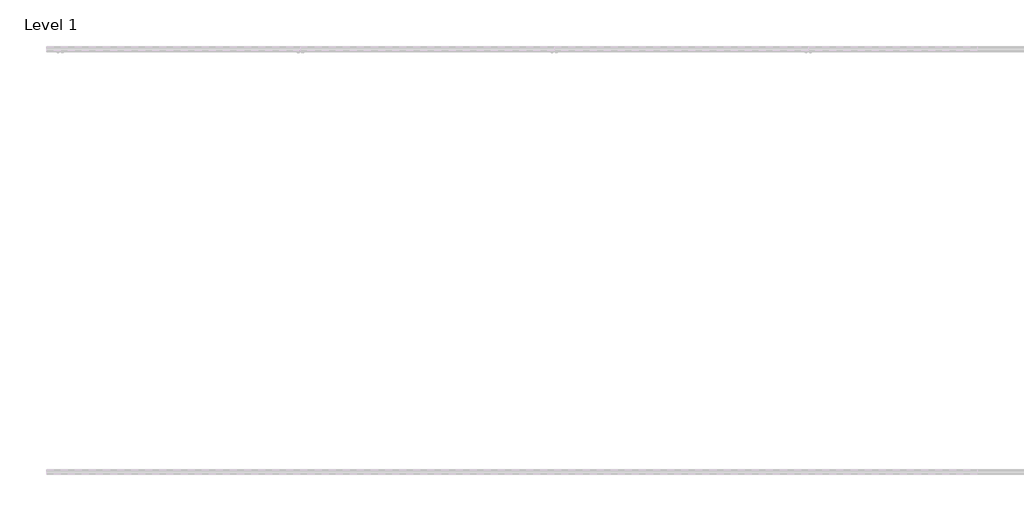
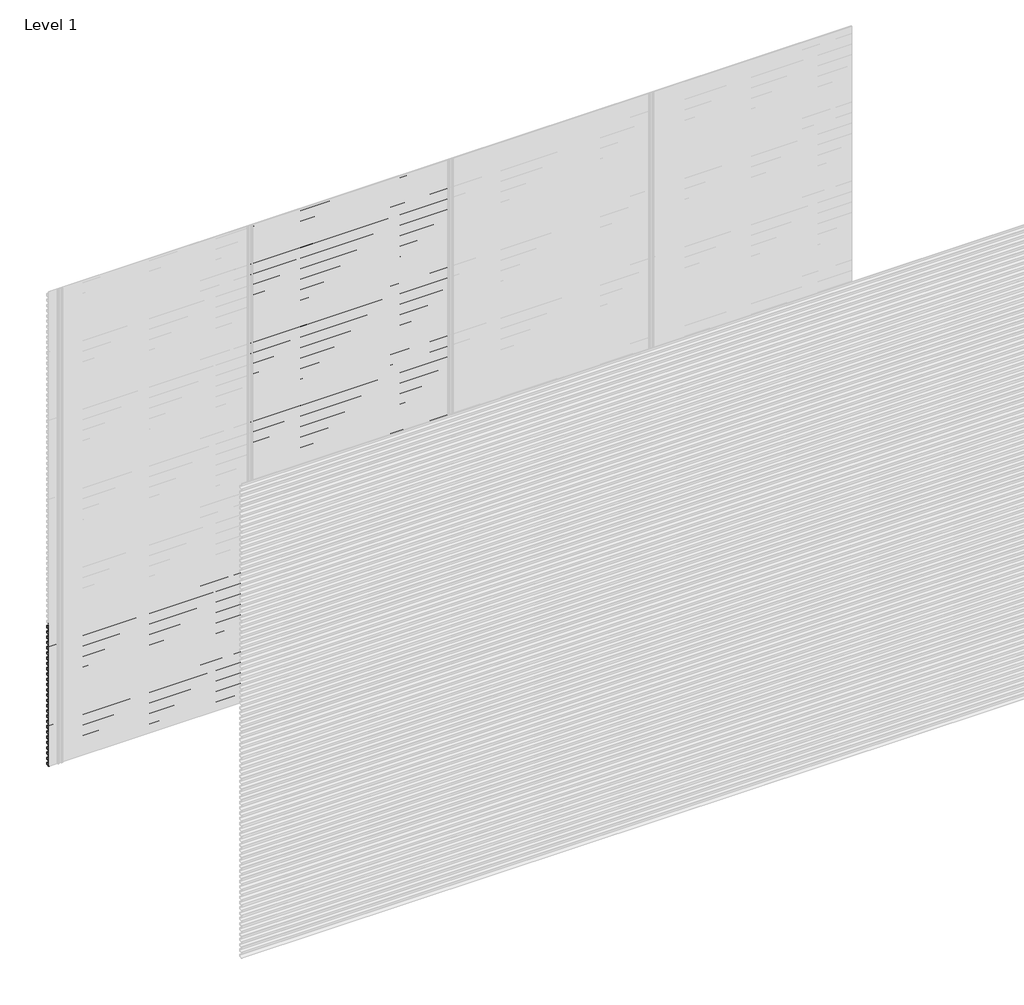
# One storey, part 73 of 77: 78 proxies.
"""IFC4 building model written with IfcOpenShell, lengths in millimetres."""

from ifc_helpers import new_model, si_unit, frame, origin, place, context, project, spatial, polyline, outline, extrude, element, save

model = new_model("IFC4")

# Units and contexts
model_context = context("Model", 3, world=origin())
ifc_project = project(units=[si_unit("LENGTHUNIT", "METRE", prefix="MILLI")], contexts=[model_context])

# Site, building, storey
site = spatial("IfcSite", under=ifc_project)
building = spatial("IfcBuilding", under=site)
storey = spatial("IfcBuildingStorey", under=building, Name="Level 1", Elevation=0.0)

# Proxies
placement = place(None, origin())
element("IfcBuildingElementProxy", 1, Name="Wall Sweeps", at=placement, inside=storey, context=model_context, shape_type="SweptSolid", body=[
    extrude(outline(polyline([(21.4, 874.6359887), (2.0, 885.8366691), (2.0, 899.1), (3.0, 899.1), (3.0, 886.4191057), (22.4, 875.2185105), (22.4, 861.6185105), (21.4, 863.1953129), (21.4, 869.0032062), (4.0226183, 860.9), (3.6, 861.8063078), (21.4, 870.1065841), (21.4, 874.6359887)])), frame((0.0, 0.0, 0.0), z_axis=(1.0, 0.0, 0.0), x_axis=(0.0, 1.0, 0.0)), (0.0, 0.0, 1.0), 1200.0),
])
element("IfcBuildingElementProxy", 2, Name="Wall Sweeps", at=placement, inside=storey, context=model_context, shape_type="SweptSolid", body=[
    extrude(outline(polyline([(21.4, 841.3359887), (2.0, 852.5366691), (2.0, 865.8), (3.0, 865.8), (3.0, 853.1191057), (22.4, 841.9185105), (22.4, 828.3185105), (21.4, 829.8953129), (21.4, 835.7032062), (4.0226183, 827.6), (3.6, 828.5063078), (21.4, 836.8065841), (21.4, 841.3359887)])), frame((0.0, 0.0, 0.0), z_axis=(1.0, 0.0, 0.0), x_axis=(0.0, 1.0, 0.0)), (0.0, 0.0, 1.0), 1200.0),
])
element("IfcBuildingElementProxy", 3, Name="Wall Sweeps", at=placement, inside=storey, context=model_context, shape_type="SweptSolid", body=[
    extrude(outline(polyline([(21.4, 808.0359887), (2.0, 819.2366691), (2.0, 832.5), (3.0, 832.5), (3.0, 819.8191057), (22.4, 808.6185105), (22.4, 795.0185105), (21.4, 796.5953129), (21.4, 802.4032062), (4.0226183, 794.3), (3.6, 795.2063078), (21.4, 803.5065841), (21.4, 808.0359887)])), frame((0.0, 0.0, 0.0), z_axis=(1.0, 0.0, 0.0), x_axis=(0.0, 1.0, 0.0)), (0.0, 0.0, 1.0), 1200.0),
])
element("IfcBuildingElementProxy", 4, Name="Wall Sweeps", at=placement, inside=storey, context=model_context, shape_type="SweptSolid", body=[
    extrude(outline(polyline([(21.4, 774.7359887), (2.0, 785.9366691), (2.0, 799.2), (3.0, 799.2), (3.0, 786.5191057), (22.4, 775.3185105), (22.4, 761.7185105), (21.4, 763.2953129), (21.4, 769.1032062), (4.0226183, 761.0), (3.6, 761.9063078), (21.4, 770.2065841), (21.4, 774.7359887)])), frame((0.0, 0.0, 0.0), z_axis=(1.0, 0.0, 0.0), x_axis=(0.0, 1.0, 0.0)), (0.0, 0.0, 1.0), 1200.0),
])
element("IfcBuildingElementProxy", 5, Name="Wall Sweeps", at=placement, inside=storey, context=model_context, shape_type="SweptSolid", body=[
    extrude(outline(polyline([(21.4, 741.4359887), (2.0, 752.6366691), (2.0, 765.9), (3.0, 765.9), (3.0, 753.2191057), (22.4, 742.0185105), (22.4, 728.4185105), (21.4, 729.9953129), (21.4, 735.8032062), (4.0226183, 727.7), (3.6, 728.6063078), (21.4, 736.9065841), (21.4, 741.4359887)])), frame((0.0, 0.0, 0.0), z_axis=(1.0, 0.0, 0.0), x_axis=(0.0, 1.0, 0.0)), (0.0, 0.0, 1.0), 1200.0),
])
element("IfcBuildingElementProxy", 6, Name="Wall Sweeps", at=placement, inside=storey, context=model_context, shape_type="SweptSolid", body=[
    extrude(outline(polyline([(21.4, 708.1359887), (2.0, 719.3366691), (2.0, 732.6), (3.0, 732.6), (3.0, 719.9191057), (22.4, 708.7185105), (22.4, 695.1185105), (21.4, 696.6953129), (21.4, 702.5032062), (4.0226183, 694.4), (3.6, 695.3063078), (21.4, 703.6065841), (21.4, 708.1359887)])), frame((0.0, 0.0, 0.0), z_axis=(1.0, 0.0, 0.0), x_axis=(0.0, 1.0, 0.0)), (0.0, 0.0, 1.0), 1200.0),
])
element("IfcBuildingElementProxy", 7, Name="Wall Sweeps", at=placement, inside=storey, context=model_context, shape_type="SweptSolid", body=[
    extrude(outline(polyline([(21.4, 674.8359887), (2.0, 686.0366691), (2.0, 699.3), (3.0, 699.3), (3.0, 686.6191057), (22.4, 675.4185105), (22.4, 661.8185105), (21.4, 663.3953129), (21.4, 669.2032062), (4.0226183, 661.1), (3.6, 662.0063078), (21.4, 670.3065841), (21.4, 674.8359887)])), frame((0.0, 0.0, 0.0), z_axis=(1.0, 0.0, 0.0), x_axis=(0.0, 1.0, 0.0)), (0.0, 0.0, 1.0), 1200.0),
])
element("IfcBuildingElementProxy", 8, Name="Wall Sweeps", at=placement, inside=storey, context=model_context, shape_type="SweptSolid", body=[
    extrude(outline(polyline([(21.4, 641.5359887), (2.0, 652.7366691), (2.0, 666.0), (3.0, 666.0), (3.0, 653.3191057), (22.4, 642.1185105), (22.4, 628.5185105), (21.4, 630.0953129), (21.4, 635.9032062), (4.0226183, 627.8), (3.6, 628.7063078), (21.4, 637.0065841), (21.4, 641.5359887)])), frame((0.0, 0.0, 0.0), z_axis=(1.0, 0.0, 0.0), x_axis=(0.0, 1.0, 0.0)), (0.0, 0.0, 1.0), 1200.0),
])
element("IfcBuildingElementProxy", 9, Name="Wall Sweeps", at=placement, inside=storey, context=model_context, shape_type="SweptSolid", body=[
    extrude(outline(polyline([(21.4, 608.2359887), (2.0, 619.4366691), (2.0, 632.7), (3.0, 632.7), (3.0, 620.0191057), (22.4, 608.8185105), (22.4, 595.2185105), (21.4, 596.7953129), (21.4, 602.6032062), (4.0226183, 594.5), (3.6, 595.4063078), (21.4, 603.7065841), (21.4, 608.2359887)])), frame((0.0, 0.0, 0.0), z_axis=(1.0, 0.0, 0.0), x_axis=(0.0, 1.0, 0.0)), (0.0, 0.0, 1.0), 1200.0),
])
element("IfcBuildingElementProxy", 10, Name="Wall Sweeps", at=placement, inside=storey, context=model_context, shape_type="SweptSolid", body=[
    extrude(outline(polyline([(21.4, 574.9359887), (2.0, 586.1366691), (2.0, 599.4), (3.0, 599.4), (3.0, 586.7191057), (22.4, 575.5185105), (22.4, 561.9185105), (21.4, 563.4953129), (21.4, 569.3032062), (4.0226183, 561.2), (3.6, 562.1063078), (21.4, 570.4065841), (21.4, 574.9359887)])), frame((0.0, 0.0, 0.0), z_axis=(1.0, 0.0, 0.0), x_axis=(0.0, 1.0, 0.0)), (0.0, 0.0, 1.0), 1200.0),
])
element("IfcBuildingElementProxy", 11, Name="Wall Sweeps", at=placement, inside=storey, context=model_context, shape_type="SweptSolid", body=[
    extrude(outline(polyline([(21.4, 541.6359887), (2.0, 552.8366691), (2.0, 566.1), (3.0, 566.1), (3.0, 553.4191057), (22.4, 542.2185105), (22.4, 528.6185105), (21.4, 530.1953129), (21.4, 536.0032062), (4.0226183, 527.9), (3.6, 528.8063078), (21.4, 537.1065841), (21.4, 541.6359887)])), frame((0.0, 0.0, 0.0), z_axis=(1.0, 0.0, 0.0), x_axis=(0.0, 1.0, 0.0)), (0.0, 0.0, 1.0), 1200.0),
])
element("IfcBuildingElementProxy", 12, Name="Wall Sweeps", at=placement, inside=storey, context=model_context, shape_type="SweptSolid", body=[
    extrude(outline(polyline([(21.4, 508.3359887), (2.0, 519.5366691), (2.0, 532.8), (3.0, 532.8), (3.0, 520.1191057), (22.4, 508.9185105), (22.4, 495.3185105), (21.4, 496.8953129), (21.4, 502.7032062), (4.0226183, 494.6), (3.6, 495.5063078), (21.4, 503.8065841), (21.4, 508.3359887)])), frame((0.0, 0.0, 0.0), z_axis=(1.0, 0.0, 0.0), x_axis=(0.0, 1.0, 0.0)), (0.0, 0.0, 1.0), 1200.0),
])
element("IfcBuildingElementProxy", 13, Name="Wall Sweeps", at=placement, inside=storey, context=model_context, shape_type="SweptSolid", body=[
    extrude(outline(polyline([(21.4, 475.0359887), (2.0, 486.2366691), (2.0, 499.5), (3.0, 499.5), (3.0, 486.8191057), (22.4, 475.6185105), (22.4, 462.0185105), (21.4, 463.5953129), (21.4, 469.4032062), (4.0226183, 461.3), (3.6, 462.2063078), (21.4, 470.5065841), (21.4, 475.0359887)])), frame((0.0, 0.0, 0.0), z_axis=(1.0, 0.0, 0.0), x_axis=(0.0, 1.0, 0.0)), (0.0, 0.0, 1.0), 1200.0),
])
element("IfcBuildingElementProxy", 14, Name="Wall Sweeps", at=placement, inside=storey, context=model_context, shape_type="SweptSolid", body=[
    extrude(outline(polyline([(21.4, 441.7359887), (2.0, 452.9366691), (2.0, 466.2), (3.0, 466.2), (3.0, 453.5191057), (22.4, 442.3185105), (22.4, 428.7185105), (21.4, 430.2953129), (21.4, 436.1032062), (4.0226183, 428.0), (3.6, 428.9063078), (21.4, 437.2065841), (21.4, 441.7359887)])), frame((0.0, 0.0, 0.0), z_axis=(1.0, 0.0, 0.0), x_axis=(0.0, 1.0, 0.0)), (0.0, 0.0, 1.0), 1200.0),
])
element("IfcBuildingElementProxy", 15, Name="Wall Sweeps", at=placement, inside=storey, context=model_context, shape_type="SweptSolid", body=[
    extrude(outline(polyline([(21.4, 408.4359887), (2.0, 419.6366691), (2.0, 432.9), (3.0, 432.9), (3.0, 420.2191057), (22.4, 409.0185105), (22.4, 395.4185105), (21.4, 396.9953129), (21.4, 402.8032062), (4.0226183, 394.7), (3.6, 395.6063078), (21.4, 403.9065841), (21.4, 408.4359887)])), frame((0.0, 0.0, 0.0), z_axis=(1.0, 0.0, 0.0), x_axis=(0.0, 1.0, 0.0)), (0.0, 0.0, 1.0), 1200.0),
])
element("IfcBuildingElementProxy", 16, Name="Wall Sweeps", at=placement, inside=storey, context=model_context, shape_type="SweptSolid", body=[
    extrude(outline(polyline([(21.4, 375.1359887), (2.0, 386.3366691), (2.0, 399.6), (3.0, 399.6), (3.0, 386.9191057), (22.4, 375.7185105), (22.4, 362.1185105), (21.4, 363.6953129), (21.4, 369.5032062), (4.0226183, 361.4), (3.6, 362.3063078), (21.4, 370.6065841), (21.4, 375.1359887)])), frame((0.0, 0.0, 0.0), z_axis=(1.0, 0.0, 0.0), x_axis=(0.0, 1.0, 0.0)), (0.0, 0.0, 1.0), 1200.0),
])
element("IfcBuildingElementProxy", 17, Name="Wall Sweeps", at=placement, inside=storey, context=model_context, shape_type="SweptSolid", body=[
    extrude(outline(polyline([(21.4, 341.8359887), (2.0, 353.0366691), (2.0, 366.3), (3.0, 366.3), (3.0, 353.6191057), (22.4, 342.4185105), (22.4, 328.8185105), (21.4, 330.3953129), (21.4, 336.2032062), (4.0226183, 328.1), (3.6, 329.0063078), (21.4, 337.3065841), (21.4, 341.8359887)])), frame((0.0, 0.0, 0.0), z_axis=(1.0, 0.0, 0.0), x_axis=(0.0, 1.0, 0.0)), (0.0, 0.0, 1.0), 1200.0),
])
element("IfcBuildingElementProxy", 18, Name="Wall Sweeps", at=placement, inside=storey, context=model_context, shape_type="SweptSolid", body=[
    extrude(outline(polyline([(21.4, 308.5359887), (2.0, 319.7366691), (2.0, 333.0), (3.0, 333.0), (3.0, 320.3191057), (22.4, 309.1185105), (22.4, 295.5185105), (21.4, 297.0953129), (21.4, 302.9032062), (4.0226183, 294.8), (3.6, 295.7063078), (21.4, 304.0065841), (21.4, 308.5359887)])), frame((0.0, 0.0, 0.0), z_axis=(1.0, 0.0, 0.0), x_axis=(0.0, 1.0, 0.0)), (0.0, 0.0, 1.0), 1200.0),
])
element("IfcBuildingElementProxy", 19, Name="Wall Sweeps", at=placement, inside=storey, context=model_context, shape_type="SweptSolid", body=[
    extrude(outline(polyline([(21.4, 275.2359887), (2.0, 286.4366691), (2.0, 299.7), (3.0, 299.7), (3.0, 287.0191057), (22.4, 275.8185105), (22.4, 262.2185105), (21.4, 263.7953129), (21.4, 269.6032062), (4.0226183, 261.5), (3.6, 262.4063078), (21.4, 270.7065841), (21.4, 275.2359887)])), frame((0.0, 0.0, 0.0), z_axis=(1.0, 0.0, 0.0), x_axis=(0.0, 1.0, 0.0)), (0.0, 0.0, 1.0), 1200.0),
])
element("IfcBuildingElementProxy", 20, Name="Wall Sweeps", at=placement, inside=storey, context=model_context, shape_type="SweptSolid", body=[
    extrude(outline(polyline([(21.4, 241.9359887), (2.0, 253.1366691), (2.0, 266.4), (3.0, 266.4), (3.0, 253.7191057), (22.4, 242.5185105), (22.4, 228.9185105), (21.4, 230.4953129), (21.4, 236.3032062), (4.0226183, 228.2), (3.6, 229.1063078), (21.4, 237.4065841), (21.4, 241.9359887)])), frame((0.0, 0.0, 0.0), z_axis=(1.0, 0.0, 0.0), x_axis=(0.0, 1.0, 0.0)), (0.0, 0.0, 1.0), 1200.0),
])
element("IfcBuildingElementProxy", 21, Name="Wall Sweeps", at=placement, inside=storey, context=model_context, shape_type="SweptSolid", body=[
    extrude(outline(polyline([(21.4, 208.6359887), (2.0, 219.8366691), (2.0, 233.1), (3.0, 233.1), (3.0, 220.4191057), (22.4, 209.2185105), (22.4, 195.6185105), (21.4, 197.1953129), (21.4, 203.0032062), (4.0226183, 194.9), (3.6, 195.8063078), (21.4, 204.1065841), (21.4, 208.6359887)])), frame((0.0, 0.0, 0.0), z_axis=(1.0, 0.0, 0.0), x_axis=(0.0, 1.0, 0.0)), (0.0, 0.0, 1.0), 1200.0),
])
element("IfcBuildingElementProxy", 22, Name="Wall Sweeps", at=placement, inside=storey, context=model_context, shape_type="SweptSolid", body=[
    extrude(outline(polyline([(21.4, 175.3359887), (2.0, 186.5366691), (2.0, 199.8), (3.0, 199.8), (3.0, 187.1191057), (22.4, 175.9185105), (22.4, 162.3185105), (21.4, 163.8953129), (21.4, 169.7032062), (4.0226183, 161.6), (3.6, 162.5063078), (21.4, 170.8065841), (21.4, 175.3359887)])), frame((0.0, 0.0, 0.0), z_axis=(1.0, 0.0, 0.0), x_axis=(0.0, 1.0, 0.0)), (0.0, 0.0, 1.0), 1200.0),
])
element("IfcBuildingElementProxy", 23, Name="Wall Sweeps", at=placement, inside=storey, context=model_context, shape_type="SweptSolid", body=[
    extrude(outline(polyline([(21.4, 142.0359887), (2.0, 153.2366691), (2.0, 166.5), (3.0, 166.5), (3.0, 153.8191057), (22.4, 142.6185105), (22.4, 129.0185105), (21.4, 130.5953129), (21.4, 136.4032062), (4.0226183, 128.3), (3.6, 129.2063078), (21.4, 137.5065841), (21.4, 142.0359887)])), frame((0.0, 0.0, 0.0), z_axis=(1.0, 0.0, 0.0), x_axis=(0.0, 1.0, 0.0)), (0.0, 0.0, 1.0), 1200.0),
])
element("IfcBuildingElementProxy", 24, Name="Wall Sweeps", at=placement, inside=storey, context=model_context, shape_type="SweptSolid", body=[
    extrude(outline(polyline([(21.4, 108.7359887), (2.0, 119.9366691), (2.0, 133.2), (3.0, 133.2), (3.0, 120.5191057), (22.4, 109.3185105), (22.4, 95.7185105), (21.4, 97.2953129), (21.4, 103.1032062), (4.0226183, 95.0), (3.6, 95.9063078), (21.4, 104.2065841), (21.4, 108.7359887)])), frame((0.0, 0.0, 0.0), z_axis=(1.0, 0.0, 0.0), x_axis=(0.0, 1.0, 0.0)), (0.0, 0.0, 1.0), 1200.0),
])
element("IfcBuildingElementProxy", 25, Name="Wall Sweeps", at=placement, inside=storey, context=model_context, shape_type="SweptSolid", body=[
    extrude(outline(polyline([(21.4, 75.4359887), (2.0, 86.6366691), (2.0, 99.9), (3.0, 99.9), (3.0, 87.2191057), (22.4, 76.0185105), (22.4, 62.4185105), (21.4, 63.9953129), (21.4, 69.8032062), (4.0226183, 61.7), (3.6, 62.6063078), (21.4, 70.9065841), (21.4, 75.4359887)])), frame((0.0, 0.0, 0.0), z_axis=(1.0, 0.0, 0.0), x_axis=(0.0, 1.0, 0.0)), (0.0, 0.0, 1.0), 1200.0),
])
element("IfcBuildingElementProxy", 26, Name="Wall Sweeps", at=placement, inside=storey, context=model_context, shape_type="SweptSolid", body=[
    extrude(outline(polyline([(21.4, 42.1359887), (2.0, 53.3366691), (2.0, 66.6), (3.0, 66.6), (3.0, 53.9191057), (22.4, 42.7185105), (22.4, 29.1185105), (21.4, 30.6953129), (21.4, 36.5032062), (4.0226183, 28.4), (3.6, 29.3063078), (21.4, 37.6065841), (21.4, 42.1359887)])), frame((0.0, 0.0, 0.0), z_axis=(1.0, 0.0, 0.0), x_axis=(0.0, 1.0, 0.0)), (0.0, 0.0, 1.0), 1200.0),
])
element("IfcBuildingElementProxy", 27, Name="Wall Sweeps", at=placement, inside=storey, context=model_context, shape_type="SweptSolid", body=[
    extrude(outline(polyline([(21.4, 8.8359887), (2.0, 20.0366691), (2.0, 33.3), (3.0, 33.3), (3.0, 20.6191057), (22.4, 9.4185105), (22.4, -4.1814895), (21.4, -2.6046871), (21.4, 3.2032062), (4.0226183, -4.9), (3.6, -3.9936922), (21.4, 4.3065841), (21.4, 8.8359887)])), frame((0.0, 0.0, 0.0), z_axis=(1.0, 0.0, 0.0), x_axis=(0.0, 1.0, 0.0)), (0.0, 0.0, 1.0), 1200.0),
])
element("IfcBuildingElementProxy", 28, Name="Wall Sweeps", at=placement, inside=storey, context=model_context, shape_type="SweptSolid", body=[
    extrude(outline(polyline([(21.4, 2972.5359887), (2.0, 2983.7366691), (2.0, 2997.0), (3.0, 2997.0), (3.0, 2984.3191057), (22.4, 2973.1185105), (22.4, 2959.5185105), (21.4, 2961.0953129), (21.4, 2966.9032062), (4.0226183, 2958.8), (3.6, 2959.7063078), (21.4, 2968.0065841), (21.4, 2972.5359887)])), frame((1200.0, 0.0, 0.0), z_axis=(1.0, 0.0, 0.0), x_axis=(0.0, 1.0, 0.0)), (0.0, 0.0, 1.0), 1200.0),
])
element("IfcBuildingElementProxy", 29, Name="Wall Sweeps", at=placement, inside=storey, context=model_context, shape_type="SweptSolid", body=[
    extrude(outline(polyline([(21.4, 2939.2359887), (2.0, 2950.4366691), (2.0, 2963.7), (3.0, 2963.7), (3.0, 2951.0191057), (22.4, 2939.8185105), (22.4, 2926.2185105), (21.4, 2927.7953129), (21.4, 2933.6032062), (4.0226183, 2925.5), (3.6, 2926.4063078), (21.4, 2934.7065841), (21.4, 2939.2359887)])), frame((1200.0, 0.0, 0.0), z_axis=(1.0, 0.0, 0.0), x_axis=(0.0, 1.0, 0.0)), (0.0, 0.0, 1.0), 1200.0),
])
element("IfcBuildingElementProxy", 30, Name="Wall Sweeps", at=placement, inside=storey, context=model_context, shape_type="SweptSolid", body=[
    extrude(outline(polyline([(21.4, 2905.9359887), (2.0, 2917.1366691), (2.0, 2930.4), (3.0, 2930.4), (3.0, 2917.7191057), (22.4, 2906.5185105), (22.4, 2892.9185105), (21.4, 2894.4953129), (21.4, 2900.3032062), (4.0226183, 2892.2), (3.6, 2893.1063078), (21.4, 2901.4065841), (21.4, 2905.9359887)])), frame((1200.0, 0.0, 0.0), z_axis=(1.0, 0.0, 0.0), x_axis=(0.0, 1.0, 0.0)), (0.0, 0.0, 1.0), 1200.0),
])
element("IfcBuildingElementProxy", 31, Name="Wall Sweeps", at=placement, inside=storey, context=model_context, shape_type="SweptSolid", body=[
    extrude(outline(polyline([(21.4, 2872.6359887), (2.0, 2883.8366691), (2.0, 2897.1), (3.0, 2897.1), (3.0, 2884.4191057), (22.4, 2873.2185105), (22.4, 2859.6185105), (21.4, 2861.1953129), (21.4, 2867.0032062), (4.0226183, 2858.9), (3.6, 2859.8063078), (21.4, 2868.1065841), (21.4, 2872.6359887)])), frame((1200.0, 0.0, 0.0), z_axis=(1.0, 0.0, 0.0), x_axis=(0.0, 1.0, 0.0)), (0.0, 0.0, 1.0), 1200.0),
])
element("IfcBuildingElementProxy", 32, Name="Wall Sweeps", at=placement, inside=storey, context=model_context, shape_type="SweptSolid", body=[
    extrude(outline(polyline([(21.4, 2839.3359887), (2.0, 2850.5366691), (2.0, 2863.8), (3.0, 2863.8), (3.0, 2851.1191057), (22.4, 2839.9185105), (22.4, 2826.3185105), (21.4, 2827.8953129), (21.4, 2833.7032062), (4.0226183, 2825.6), (3.6, 2826.5063078), (21.4, 2834.8065841), (21.4, 2839.3359887)])), frame((1200.0, 0.0, 0.0), z_axis=(1.0, 0.0, 0.0), x_axis=(0.0, 1.0, 0.0)), (0.0, 0.0, 1.0), 1200.0),
])
element("IfcBuildingElementProxy", 33, Name="Wall Sweeps", at=placement, inside=storey, context=model_context, shape_type="SweptSolid", body=[
    extrude(outline(polyline([(21.4, 2806.0359887), (2.0, 2817.2366691), (2.0, 2830.5), (3.0, 2830.5), (3.0, 2817.8191057), (22.4, 2806.6185105), (22.4, 2793.0185105), (21.4, 2794.5953129), (21.4, 2800.4032062), (4.0226183, 2792.3), (3.6, 2793.2063078), (21.4, 2801.5065841), (21.4, 2806.0359887)])), frame((1200.0, 0.0, 0.0), z_axis=(1.0, 0.0, 0.0), x_axis=(0.0, 1.0, 0.0)), (0.0, 0.0, 1.0), 1200.0),
])
element("IfcBuildingElementProxy", 34, Name="Wall Sweeps", at=placement, inside=storey, context=model_context, shape_type="SweptSolid", body=[
    extrude(outline(polyline([(21.4, 2772.7359887), (2.0, 2783.9366691), (2.0, 2797.2), (3.0, 2797.2), (3.0, 2784.5191057), (22.4, 2773.3185105), (22.4, 2759.7185105), (21.4, 2761.2953129), (21.4, 2767.1032062), (4.0226183, 2759.0), (3.6, 2759.9063078), (21.4, 2768.2065841), (21.4, 2772.7359887)])), frame((1200.0, 0.0, 0.0), z_axis=(1.0, 0.0, 0.0), x_axis=(0.0, 1.0, 0.0)), (0.0, 0.0, 1.0), 1200.0),
])
element("IfcBuildingElementProxy", 35, Name="Wall Sweeps", at=placement, inside=storey, context=model_context, shape_type="SweptSolid", body=[
    extrude(outline(polyline([(21.4, 2739.4359887), (2.0, 2750.6366691), (2.0, 2763.9), (3.0, 2763.9), (3.0, 2751.2191057), (22.4, 2740.0185105), (22.4, 2726.4185105), (21.4, 2727.9953129), (21.4, 2733.8032062), (4.0226183, 2725.7), (3.6, 2726.6063078), (21.4, 2734.9065841), (21.4, 2739.4359887)])), frame((1200.0, 0.0, 0.0), z_axis=(1.0, 0.0, 0.0), x_axis=(0.0, 1.0, 0.0)), (0.0, 0.0, 1.0), 1200.0),
])
element("IfcBuildingElementProxy", 36, Name="Wall Sweeps", at=placement, inside=storey, context=model_context, shape_type="SweptSolid", body=[
    extrude(outline(polyline([(21.4, 2706.1359887), (2.0, 2717.3366691), (2.0, 2730.6), (3.0, 2730.6), (3.0, 2717.9191057), (22.4, 2706.7185105), (22.4, 2693.1185105), (21.4, 2694.6953129), (21.4, 2700.5032062), (4.0226183, 2692.4), (3.6, 2693.3063078), (21.4, 2701.6065841), (21.4, 2706.1359887)])), frame((1200.0, 0.0, 0.0), z_axis=(1.0, 0.0, 0.0), x_axis=(0.0, 1.0, 0.0)), (0.0, 0.0, 1.0), 1200.0),
])
element("IfcBuildingElementProxy", 37, Name="Wall Sweeps", at=placement, inside=storey, context=model_context, shape_type="SweptSolid", body=[
    extrude(outline(polyline([(21.4, 2672.8359887), (2.0, 2684.0366691), (2.0, 2697.3), (3.0, 2697.3), (3.0, 2684.6191057), (22.4, 2673.4185105), (22.4, 2659.8185105), (21.4, 2661.3953129), (21.4, 2667.2032062), (4.0226183, 2659.1), (3.6, 2660.0063078), (21.4, 2668.3065841), (21.4, 2672.8359887)])), frame((1200.0, 0.0, 0.0), z_axis=(1.0, 0.0, 0.0), x_axis=(0.0, 1.0, 0.0)), (0.0, 0.0, 1.0), 1200.0),
])
element("IfcBuildingElementProxy", 38, Name="Wall Sweeps", at=placement, inside=storey, context=model_context, shape_type="SweptSolid", body=[
    extrude(outline(polyline([(21.4, 2639.5359887), (2.0, 2650.7366691), (2.0, 2664.0), (3.0, 2664.0), (3.0, 2651.3191057), (22.4, 2640.1185105), (22.4, 2626.5185105), (21.4, 2628.0953129), (21.4, 2633.9032062), (4.0226183, 2625.8), (3.6, 2626.7063078), (21.4, 2635.0065841), (21.4, 2639.5359887)])), frame((1200.0, 0.0, 0.0), z_axis=(1.0, 0.0, 0.0), x_axis=(0.0, 1.0, 0.0)), (0.0, 0.0, 1.0), 1200.0),
])
element("IfcBuildingElementProxy", 39, Name="Wall Sweeps", at=placement, inside=storey, context=model_context, shape_type="SweptSolid", body=[
    extrude(outline(polyline([(21.4, 2606.2359887), (2.0, 2617.4366691), (2.0, 2630.7), (3.0, 2630.7), (3.0, 2618.0191057), (22.4, 2606.8185105), (22.4, 2593.2185105), (21.4, 2594.7953129), (21.4, 2600.6032062), (4.0226183, 2592.5), (3.6, 2593.4063078), (21.4, 2601.7065841), (21.4, 2606.2359887)])), frame((1200.0, 0.0, 0.0), z_axis=(1.0, 0.0, 0.0), x_axis=(0.0, 1.0, 0.0)), (0.0, 0.0, 1.0), 1200.0),
])
element("IfcBuildingElementProxy", 40, Name="Wall Sweeps", at=placement, inside=storey, context=model_context, shape_type="SweptSolid", body=[
    extrude(outline(polyline([(21.4, 2572.9359887), (2.0, 2584.1366691), (2.0, 2597.4), (3.0, 2597.4), (3.0, 2584.7191057), (22.4, 2573.5185105), (22.4, 2559.9185105), (21.4, 2561.4953129), (21.4, 2567.3032062), (4.0226183, 2559.2), (3.6, 2560.1063078), (21.4, 2568.4065841), (21.4, 2572.9359887)])), frame((1200.0, 0.0, 0.0), z_axis=(1.0, 0.0, 0.0), x_axis=(0.0, 1.0, 0.0)), (0.0, 0.0, 1.0), 1200.0),
])
element("IfcBuildingElementProxy", 41, Name="Wall Sweeps", at=placement, inside=storey, context=model_context, shape_type="SweptSolid", body=[
    extrude(outline(polyline([(21.4, 2539.6359887), (2.0, 2550.8366691), (2.0, 2564.1), (3.0, 2564.1), (3.0, 2551.4191057), (22.4, 2540.2185105), (22.4, 2526.6185105), (21.4, 2528.1953129), (21.4, 2534.0032062), (4.0226183, 2525.9), (3.6, 2526.8063078), (21.4, 2535.1065841), (21.4, 2539.6359887)])), frame((1200.0, 0.0, 0.0), z_axis=(1.0, 0.0, 0.0), x_axis=(0.0, 1.0, 0.0)), (0.0, 0.0, 1.0), 1200.0),
])
element("IfcBuildingElementProxy", 42, Name="Wall Sweeps", at=placement, inside=storey, context=model_context, shape_type="SweptSolid", body=[
    extrude(outline(polyline([(21.4, 2506.3359887), (2.0, 2517.5366691), (2.0, 2530.8), (3.0, 2530.8), (3.0, 2518.1191057), (22.4, 2506.9185105), (22.4, 2493.3185105), (21.4, 2494.8953129), (21.4, 2500.7032062), (4.0226183, 2492.6), (3.6, 2493.5063078), (21.4, 2501.8065841), (21.4, 2506.3359887)])), frame((1200.0, 0.0, 0.0), z_axis=(1.0, 0.0, 0.0), x_axis=(0.0, 1.0, 0.0)), (0.0, 0.0, 1.0), 1200.0),
])
element("IfcBuildingElementProxy", 43, Name="Wall Sweeps", at=placement, inside=storey, context=model_context, shape_type="SweptSolid", body=[
    extrude(outline(polyline([(21.4, 2473.0359887), (2.0, 2484.2366691), (2.0, 2497.5), (3.0, 2497.5), (3.0, 2484.8191057), (22.4, 2473.6185105), (22.4, 2460.0185105), (21.4, 2461.5953129), (21.4, 2467.4032062), (4.0226183, 2459.3), (3.6, 2460.2063078), (21.4, 2468.5065841), (21.4, 2473.0359887)])), frame((1200.0, 0.0, 0.0), z_axis=(1.0, 0.0, 0.0), x_axis=(0.0, 1.0, 0.0)), (0.0, 0.0, 1.0), 1200.0),
])
element("IfcBuildingElementProxy", 44, Name="Wall Sweeps", at=placement, inside=storey, context=model_context, shape_type="SweptSolid", body=[
    extrude(outline(polyline([(21.4, 2439.7359887), (2.0, 2450.9366691), (2.0, 2464.2), (3.0, 2464.2), (3.0, 2451.5191057), (22.4, 2440.3185105), (22.4, 2426.7185105), (21.4, 2428.2953129), (21.4, 2434.1032062), (4.0226183, 2426.0), (3.6, 2426.9063078), (21.4, 2435.2065841), (21.4, 2439.7359887)])), frame((1200.0, 0.0, 0.0), z_axis=(1.0, 0.0, 0.0), x_axis=(0.0, 1.0, 0.0)), (0.0, 0.0, 1.0), 1200.0),
])
element("IfcBuildingElementProxy", 45, Name="Wall Sweeps", at=placement, inside=storey, context=model_context, shape_type="SweptSolid", body=[
    extrude(outline(polyline([(21.4, 2406.4359887), (2.0, 2417.6366691), (2.0, 2430.9), (3.0, 2430.9), (3.0, 2418.2191057), (22.4, 2407.0185105), (22.4, 2393.4185105), (21.4, 2394.9953129), (21.4, 2400.8032062), (4.0226183, 2392.7), (3.6, 2393.6063078), (21.4, 2401.9065841), (21.4, 2406.4359887)])), frame((1200.0, 0.0, 0.0), z_axis=(1.0, 0.0, 0.0), x_axis=(0.0, 1.0, 0.0)), (0.0, 0.0, 1.0), 1200.0),
])
element("IfcBuildingElementProxy", 46, Name="Wall Sweeps", at=placement, inside=storey, context=model_context, shape_type="SweptSolid", body=[
    extrude(outline(polyline([(21.4, 2373.1359887), (2.0, 2384.3366691), (2.0, 2397.6), (3.0, 2397.6), (3.0, 2384.9191057), (22.4, 2373.7185105), (22.4, 2360.1185105), (21.4, 2361.6953129), (21.4, 2367.5032062), (4.0226183, 2359.4), (3.6, 2360.3063078), (21.4, 2368.6065841), (21.4, 2373.1359887)])), frame((1200.0, 0.0, 0.0), z_axis=(1.0, 0.0, 0.0), x_axis=(0.0, 1.0, 0.0)), (0.0, 0.0, 1.0), 1200.0),
])
element("IfcBuildingElementProxy", 47, Name="Wall Sweeps", at=placement, inside=storey, context=model_context, shape_type="SweptSolid", body=[
    extrude(outline(polyline([(21.4, 2339.8359887), (2.0, 2351.0366691), (2.0, 2364.3), (3.0, 2364.3), (3.0, 2351.6191057), (22.4, 2340.4185105), (22.4, 2326.8185105), (21.4, 2328.3953129), (21.4, 2334.2032062), (4.0226183, 2326.1), (3.6, 2327.0063078), (21.4, 2335.3065841), (21.4, 2339.8359887)])), frame((1200.0, 0.0, 0.0), z_axis=(1.0, 0.0, 0.0), x_axis=(0.0, 1.0, 0.0)), (0.0, 0.0, 1.0), 1200.0),
])
element("IfcBuildingElementProxy", 48, Name="Wall Sweeps", at=placement, inside=storey, context=model_context, shape_type="SweptSolid", body=[
    extrude(outline(polyline([(21.4, 2306.5359887), (2.0, 2317.7366691), (2.0, 2331.0), (3.0, 2331.0), (3.0, 2318.3191057), (22.4, 2307.1185105), (22.4, 2293.5185105), (21.4, 2295.0953129), (21.4, 2300.9032062), (4.0226183, 2292.8), (3.6, 2293.7063078), (21.4, 2302.0065841), (21.4, 2306.5359887)])), frame((1200.0, 0.0, 0.0), z_axis=(1.0, 0.0, 0.0), x_axis=(0.0, 1.0, 0.0)), (0.0, 0.0, 1.0), 1200.0),
])
element("IfcBuildingElementProxy", 49, Name="Wall Sweeps", at=placement, inside=storey, context=model_context, shape_type="SweptSolid", body=[
    extrude(outline(polyline([(21.4, 2273.2359887), (2.0, 2284.4366691), (2.0, 2297.7), (3.0, 2297.7), (3.0, 2285.0191057), (22.4, 2273.8185105), (22.4, 2260.2185105), (21.4, 2261.7953129), (21.4, 2267.6032062), (4.0226183, 2259.5), (3.6, 2260.4063078), (21.4, 2268.7065841), (21.4, 2273.2359887)])), frame((1200.0, 0.0, 0.0), z_axis=(1.0, 0.0, 0.0), x_axis=(0.0, 1.0, 0.0)), (0.0, 0.0, 1.0), 1200.0),
])
element("IfcBuildingElementProxy", 50, Name="Wall Sweeps", at=placement, inside=storey, context=model_context, shape_type="SweptSolid", body=[
    extrude(outline(polyline([(21.4, 2239.9359887), (2.0, 2251.1366691), (2.0, 2264.4), (3.0, 2264.4), (3.0, 2251.7191057), (22.4, 2240.5185105), (22.4, 2226.9185105), (21.4, 2228.4953129), (21.4, 2234.3032062), (4.0226183, 2226.2), (3.6, 2227.1063078), (21.4, 2235.4065841), (21.4, 2239.9359887)])), frame((1200.0, 0.0, 0.0), z_axis=(1.0, 0.0, 0.0), x_axis=(0.0, 1.0, 0.0)), (0.0, 0.0, 1.0), 1200.0),
])
element("IfcBuildingElementProxy", 51, Name="Wall Sweeps", at=placement, inside=storey, context=model_context, shape_type="SweptSolid", body=[
    extrude(outline(polyline([(21.4, 2206.6359887), (2.0, 2217.8366691), (2.0, 2231.1), (3.0, 2231.1), (3.0, 2218.4191057), (22.4, 2207.2185105), (22.4, 2193.6185105), (21.4, 2195.1953129), (21.4, 2201.0032062), (4.0226183, 2192.9), (3.6, 2193.8063078), (21.4, 2202.1065841), (21.4, 2206.6359887)])), frame((1200.0, 0.0, 0.0), z_axis=(1.0, 0.0, 0.0), x_axis=(0.0, 1.0, 0.0)), (0.0, 0.0, 1.0), 1200.0),
])
element("IfcBuildingElementProxy", 52, Name="Wall Sweeps", at=placement, inside=storey, context=model_context, shape_type="SweptSolid", body=[
    extrude(outline(polyline([(21.4, 2173.3359887), (2.0, 2184.5366691), (2.0, 2197.8), (3.0, 2197.8), (3.0, 2185.1191057), (22.4, 2173.9185105), (22.4, 2160.3185105), (21.4, 2161.8953129), (21.4, 2167.7032062), (4.0226183, 2159.6), (3.6, 2160.5063078), (21.4, 2168.8065841), (21.4, 2173.3359887)])), frame((1200.0, 0.0, 0.0), z_axis=(1.0, 0.0, 0.0), x_axis=(0.0, 1.0, 0.0)), (0.0, 0.0, 1.0), 1200.0),
])
element("IfcBuildingElementProxy", 53, Name="Wall Sweeps", at=placement, inside=storey, context=model_context, shape_type="SweptSolid", body=[
    extrude(outline(polyline([(21.4, 2140.0359887), (2.0, 2151.2366691), (2.0, 2164.5), (3.0, 2164.5), (3.0, 2151.8191057), (22.4, 2140.6185105), (22.4, 2127.0185105), (21.4, 2128.5953129), (21.4, 2134.4032062), (4.0226183, 2126.3), (3.6, 2127.2063078), (21.4, 2135.5065841), (21.4, 2140.0359887)])), frame((1200.0, 0.0, 0.0), z_axis=(1.0, 0.0, 0.0), x_axis=(0.0, 1.0, 0.0)), (0.0, 0.0, 1.0), 1200.0),
])
element("IfcBuildingElementProxy", 54, Name="Wall Sweeps", at=placement, inside=storey, context=model_context, shape_type="SweptSolid", body=[
    extrude(outline(polyline([(21.4, 2106.7359887), (2.0, 2117.9366691), (2.0, 2131.2), (3.0, 2131.2), (3.0, 2118.5191057), (22.4, 2107.3185105), (22.4, 2093.7185105), (21.4, 2095.2953129), (21.4, 2101.1032062), (4.0226183, 2093.0), (3.6, 2093.9063078), (21.4, 2102.2065841), (21.4, 2106.7359887)])), frame((1200.0, 0.0, 0.0), z_axis=(1.0, 0.0, 0.0), x_axis=(0.0, 1.0, 0.0)), (0.0, 0.0, 1.0), 1200.0),
])
element("IfcBuildingElementProxy", 55, Name="Wall Sweeps", at=placement, inside=storey, context=model_context, shape_type="SweptSolid", body=[
    extrude(outline(polyline([(21.4, 2073.4359887), (2.0, 2084.6366691), (2.0, 2097.9), (3.0, 2097.9), (3.0, 2085.2191057), (22.4, 2074.0185105), (22.4, 2060.4185105), (21.4, 2061.9953129), (21.4, 2067.8032062), (4.0226183, 2059.7), (3.6, 2060.6063078), (21.4, 2068.9065841), (21.4, 2073.4359887)])), frame((1200.0, 0.0, 0.0), z_axis=(1.0, 0.0, 0.0), x_axis=(0.0, 1.0, 0.0)), (0.0, 0.0, 1.0), 1200.0),
])
element("IfcBuildingElementProxy", 56, Name="Wall Sweeps", at=placement, inside=storey, context=model_context, shape_type="SweptSolid", body=[
    extrude(outline(polyline([(21.4, 2040.1359887), (2.0, 2051.3366691), (2.0, 2064.6), (3.0, 2064.6), (3.0, 2051.9191057), (22.4, 2040.7185105), (22.4, 2027.1185105), (21.4, 2028.6953129), (21.4, 2034.5032062), (4.0226183, 2026.4), (3.6, 2027.3063078), (21.4, 2035.6065841), (21.4, 2040.1359887)])), frame((1200.0, 0.0, 0.0), z_axis=(1.0, 0.0, 0.0), x_axis=(0.0, 1.0, 0.0)), (0.0, 0.0, 1.0), 1200.0),
])
element("IfcBuildingElementProxy", 57, Name="Wall Sweeps", at=placement, inside=storey, context=model_context, shape_type="SweptSolid", body=[
    extrude(outline(polyline([(21.4, 2006.8359887), (2.0, 2018.0366691), (2.0, 2031.3), (3.0, 2031.3), (3.0, 2018.6191057), (22.4, 2007.4185105), (22.4, 1993.8185105), (21.4, 1995.3953129), (21.4, 2001.2032062), (4.0226183, 1993.1), (3.6, 1994.0063078), (21.4, 2002.3065841), (21.4, 2006.8359887)])), frame((1200.0, 0.0, 0.0), z_axis=(1.0, 0.0, 0.0), x_axis=(0.0, 1.0, 0.0)), (0.0, 0.0, 1.0), 1200.0),
])
element("IfcBuildingElementProxy", 58, Name="Wall Sweeps", at=placement, inside=storey, context=model_context, shape_type="SweptSolid", body=[
    extrude(outline(polyline([(21.4, 1973.5359887), (2.0, 1984.7366691), (2.0, 1998.0), (3.0, 1998.0), (3.0, 1985.3191057), (22.4, 1974.1185105), (22.4, 1960.5185105), (21.4, 1962.0953129), (21.4, 1967.9032062), (4.0226183, 1959.8), (3.6, 1960.7063078), (21.4, 1969.0065841), (21.4, 1973.5359887)])), frame((1200.0, 0.0, 0.0), z_axis=(1.0, 0.0, 0.0), x_axis=(0.0, 1.0, 0.0)), (0.0, 0.0, 1.0), 1200.0),
])
element("IfcBuildingElementProxy", 59, Name="Wall Sweeps", at=placement, inside=storey, context=model_context, shape_type="SweptSolid", body=[
    extrude(outline(polyline([(21.4, 1940.2359887), (2.0, 1951.4366691), (2.0, 1964.7), (3.0, 1964.7), (3.0, 1952.0191057), (22.4, 1940.8185105), (22.4, 1927.2185105), (21.4, 1928.7953129), (21.4, 1934.6032062), (4.0226183, 1926.5), (3.6, 1927.4063078), (21.4, 1935.7065841), (21.4, 1940.2359887)])), frame((1200.0, 0.0, 0.0), z_axis=(1.0, 0.0, 0.0), x_axis=(0.0, 1.0, 0.0)), (0.0, 0.0, 1.0), 1200.0),
])
element("IfcBuildingElementProxy", 60, Name="Wall Sweeps", at=placement, inside=storey, context=model_context, shape_type="SweptSolid", body=[
    extrude(outline(polyline([(21.4, 1906.9359887), (2.0, 1918.1366691), (2.0, 1931.4), (3.0, 1931.4), (3.0, 1918.7191057), (22.4, 1907.5185105), (22.4, 1893.9185105), (21.4, 1895.4953129), (21.4, 1901.3032062), (4.0226183, 1893.2), (3.6, 1894.1063078), (21.4, 1902.4065841), (21.4, 1906.9359887)])), frame((1200.0, 0.0, 0.0), z_axis=(1.0, 0.0, 0.0), x_axis=(0.0, 1.0, 0.0)), (0.0, 0.0, 1.0), 1200.0),
])
element("IfcBuildingElementProxy", 61, Name="Wall Sweeps", at=placement, inside=storey, context=model_context, shape_type="SweptSolid", body=[
    extrude(outline(polyline([(21.4, 1873.6359887), (2.0, 1884.8366691), (2.0, 1898.1), (3.0, 1898.1), (3.0, 1885.4191057), (22.4, 1874.2185105), (22.4, 1860.6185105), (21.4, 1862.1953129), (21.4, 1868.0032062), (4.0226183, 1859.9), (3.6, 1860.8063078), (21.4, 1869.1065841), (21.4, 1873.6359887)])), frame((1200.0, 0.0, 0.0), z_axis=(1.0, 0.0, 0.0), x_axis=(0.0, 1.0, 0.0)), (0.0, 0.0, 1.0), 1200.0),
])
element("IfcBuildingElementProxy", 62, Name="Wall Sweeps", at=placement, inside=storey, context=model_context, shape_type="SweptSolid", body=[
    extrude(outline(polyline([(21.4, 1840.3359887), (2.0, 1851.5366691), (2.0, 1864.8), (3.0, 1864.8), (3.0, 1852.1191057), (22.4, 1840.9185105), (22.4, 1827.3185105), (21.4, 1828.8953129), (21.4, 1834.7032062), (4.0226183, 1826.6), (3.6, 1827.5063078), (21.4, 1835.8065841), (21.4, 1840.3359887)])), frame((1200.0, 0.0, 0.0), z_axis=(1.0, 0.0, 0.0), x_axis=(0.0, 1.0, 0.0)), (0.0, 0.0, 1.0), 1200.0),
])
element("IfcBuildingElementProxy", 63, Name="Wall Sweeps", at=placement, inside=storey, context=model_context, shape_type="SweptSolid", body=[
    extrude(outline(polyline([(21.4, 1807.0359887), (2.0, 1818.2366691), (2.0, 1831.5), (3.0, 1831.5), (3.0, 1818.8191057), (22.4, 1807.6185105), (22.4, 1794.0185105), (21.4, 1795.5953129), (21.4, 1801.4032062), (4.0226183, 1793.3), (3.6, 1794.2063078), (21.4, 1802.5065841), (21.4, 1807.0359887)])), frame((1200.0, 0.0, 0.0), z_axis=(1.0, 0.0, 0.0), x_axis=(0.0, 1.0, 0.0)), (0.0, 0.0, 1.0), 1200.0),
])
element("IfcBuildingElementProxy", 64, Name="Wall Sweeps", at=placement, inside=storey, context=model_context, shape_type="SweptSolid", body=[
    extrude(outline(polyline([(21.4, 1773.7359887), (2.0, 1784.9366691), (2.0, 1798.2), (3.0, 1798.2), (3.0, 1785.5191057), (22.4, 1774.3185105), (22.4, 1760.7185105), (21.4, 1762.2953129), (21.4, 1768.1032062), (4.0226183, 1760.0), (3.6, 1760.9063078), (21.4, 1769.2065841), (21.4, 1773.7359887)])), frame((1200.0, 0.0, 0.0), z_axis=(1.0, 0.0, 0.0), x_axis=(0.0, 1.0, 0.0)), (0.0, 0.0, 1.0), 1200.0),
])
element("IfcBuildingElementProxy", 65, Name="Wall Sweeps", at=placement, inside=storey, context=model_context, shape_type="SweptSolid", body=[
    extrude(outline(polyline([(21.4, 1740.4359887), (2.0, 1751.6366691), (2.0, 1764.9), (3.0, 1764.9), (3.0, 1752.2191057), (22.4, 1741.0185105), (22.4, 1727.4185105), (21.4, 1728.9953129), (21.4, 1734.8032062), (4.0226183, 1726.7), (3.6, 1727.6063078), (21.4, 1735.9065841), (21.4, 1740.4359887)])), frame((1200.0, 0.0, 0.0), z_axis=(1.0, 0.0, 0.0), x_axis=(0.0, 1.0, 0.0)), (0.0, 0.0, 1.0), 1200.0),
])
element("IfcBuildingElementProxy", 66, Name="Wall Sweeps", at=placement, inside=storey, context=model_context, shape_type="SweptSolid", body=[
    extrude(outline(polyline([(21.4, 1707.1359887), (2.0, 1718.3366691), (2.0, 1731.6), (3.0, 1731.6), (3.0, 1718.9191057), (22.4, 1707.7185105), (22.4, 1694.1185105), (21.4, 1695.6953129), (21.4, 1701.5032062), (4.0226183, 1693.4), (3.6, 1694.3063078), (21.4, 1702.6065841), (21.4, 1707.1359887)])), frame((1200.0, 0.0, 0.0), z_axis=(1.0, 0.0, 0.0), x_axis=(0.0, 1.0, 0.0)), (0.0, 0.0, 1.0), 1200.0),
])
element("IfcBuildingElementProxy", 67, Name="Wall Sweeps", at=placement, inside=storey, context=model_context, shape_type="SweptSolid", body=[
    extrude(outline(polyline([(21.4, 1673.8359887), (2.0, 1685.0366691), (2.0, 1698.3), (3.0, 1698.3), (3.0, 1685.6191057), (22.4, 1674.4185105), (22.4, 1660.8185105), (21.4, 1662.3953129), (21.4, 1668.2032062), (4.0226183, 1660.1), (3.6, 1661.0063078), (21.4, 1669.3065841), (21.4, 1673.8359887)])), frame((1200.0, 0.0, 0.0), z_axis=(1.0, 0.0, 0.0), x_axis=(0.0, 1.0, 0.0)), (0.0, 0.0, 1.0), 1200.0),
])
element("IfcBuildingElementProxy", 68, Name="Wall Sweeps", at=placement, inside=storey, context=model_context, shape_type="SweptSolid", body=[
    extrude(outline(polyline([(21.4, 1640.5359887), (2.0, 1651.7366691), (2.0, 1665.0), (3.0, 1665.0), (3.0, 1652.3191057), (22.4, 1641.1185105), (22.4, 1627.5185105), (21.4, 1629.0953129), (21.4, 1634.9032062), (4.0226183, 1626.8), (3.6, 1627.7063078), (21.4, 1636.0065841), (21.4, 1640.5359887)])), frame((1200.0, 0.0, 0.0), z_axis=(1.0, 0.0, 0.0), x_axis=(0.0, 1.0, 0.0)), (0.0, 0.0, 1.0), 1200.0),
])
element("IfcBuildingElementProxy", 69, Name="Wall Sweeps", at=placement, inside=storey, context=model_context, shape_type="SweptSolid", body=[
    extrude(outline(polyline([(21.4, 1607.2359887), (2.0, 1618.4366691), (2.0, 1631.7), (3.0, 1631.7), (3.0, 1619.0191057), (22.4, 1607.8185105), (22.4, 1594.2185105), (21.4, 1595.7953129), (21.4, 1601.6032062), (4.0226183, 1593.5), (3.6, 1594.4063078), (21.4, 1602.7065841), (21.4, 1607.2359887)])), frame((1200.0, 0.0, 0.0), z_axis=(1.0, 0.0, 0.0), x_axis=(0.0, 1.0, 0.0)), (0.0, 0.0, 1.0), 1200.0),
])
element("IfcBuildingElementProxy", 70, Name="Wall Sweeps", at=placement, inside=storey, context=model_context, shape_type="SweptSolid", body=[
    extrude(outline(polyline([(21.4, 1573.9359887), (2.0, 1585.1366691), (2.0, 1598.4), (3.0, 1598.4), (3.0, 1585.7191057), (22.4, 1574.5185105), (22.4, 1560.9185105), (21.4, 1562.4953129), (21.4, 1568.3032062), (4.0226183, 1560.2), (3.6, 1561.1063078), (21.4, 1569.4065841), (21.4, 1573.9359887)])), frame((1200.0, 0.0, 0.0), z_axis=(1.0, 0.0, 0.0), x_axis=(0.0, 1.0, 0.0)), (0.0, 0.0, 1.0), 1200.0),
])
element("IfcBuildingElementProxy", 71, Name="Wall Sweeps", at=placement, inside=storey, context=model_context, shape_type="SweptSolid", body=[
    extrude(outline(polyline([(21.4, 1540.6359887), (2.0, 1551.8366691), (2.0, 1565.1), (3.0, 1565.1), (3.0, 1552.4191057), (22.4, 1541.2185105), (22.4, 1527.6185105), (21.4, 1529.1953129), (21.4, 1535.0032062), (4.0226183, 1526.9), (3.6, 1527.8063078), (21.4, 1536.1065841), (21.4, 1540.6359887)])), frame((1200.0, 0.0, 0.0), z_axis=(1.0, 0.0, 0.0), x_axis=(0.0, 1.0, 0.0)), (0.0, 0.0, 1.0), 1200.0),
])
element("IfcBuildingElementProxy", 72, Name="Wall Sweeps", at=placement, inside=storey, context=model_context, shape_type="SweptSolid", body=[
    extrude(outline(polyline([(21.4, 1507.3359887), (2.0, 1518.5366691), (2.0, 1531.8), (3.0, 1531.8), (3.0, 1519.1191057), (22.4, 1507.9185105), (22.4, 1494.3185105), (21.4, 1495.8953129), (21.4, 1501.7032062), (4.0226183, 1493.6), (3.6, 1494.5063078), (21.4, 1502.8065841), (21.4, 1507.3359887)])), frame((1200.0, 0.0, 0.0), z_axis=(1.0, 0.0, 0.0), x_axis=(0.0, 1.0, 0.0)), (0.0, 0.0, 1.0), 1200.0),
])
element("IfcBuildingElementProxy", 73, Name="Wall Sweeps", at=placement, inside=storey, context=model_context, shape_type="SweptSolid", body=[
    extrude(outline(polyline([(21.4, 1474.0359887), (2.0, 1485.2366691), (2.0, 1498.5), (3.0, 1498.5), (3.0, 1485.8191057), (22.4, 1474.6185105), (22.4, 1461.0185105), (21.4, 1462.5953129), (21.4, 1468.4032062), (4.0226183, 1460.3), (3.6, 1461.2063078), (21.4, 1469.5065841), (21.4, 1474.0359887)])), frame((1200.0, 0.0, 0.0), z_axis=(1.0, 0.0, 0.0), x_axis=(0.0, 1.0, 0.0)), (0.0, 0.0, 1.0), 1200.0),
])
element("IfcBuildingElementProxy", 74, Name="Wall Sweeps", at=placement, inside=storey, context=model_context, shape_type="SweptSolid", body=[
    extrude(outline(polyline([(21.4, 1440.7359887), (2.0, 1451.9366691), (2.0, 1465.2), (3.0, 1465.2), (3.0, 1452.5191057), (22.4, 1441.3185105), (22.4, 1427.7185105), (21.4, 1429.2953129), (21.4, 1435.1032062), (4.0226183, 1427.0), (3.6, 1427.9063078), (21.4, 1436.2065841), (21.4, 1440.7359887)])), frame((1200.0, 0.0, 0.0), z_axis=(1.0, 0.0, 0.0), x_axis=(0.0, 1.0, 0.0)), (0.0, 0.0, 1.0), 1200.0),
])
element("IfcBuildingElementProxy", 75, Name="Wall Sweeps", at=placement, inside=storey, context=model_context, shape_type="SweptSolid", body=[
    extrude(outline(polyline([(21.4, 1407.4359887), (2.0, 1418.6366691), (2.0, 1431.9), (3.0, 1431.9), (3.0, 1419.2191057), (22.4, 1408.0185105), (22.4, 1394.4185105), (21.4, 1395.9953129), (21.4, 1401.8032062), (4.0226183, 1393.7), (3.6, 1394.6063078), (21.4, 1402.9065841), (21.4, 1407.4359887)])), frame((1200.0, 0.0, 0.0), z_axis=(1.0, 0.0, 0.0), x_axis=(0.0, 1.0, 0.0)), (0.0, 0.0, 1.0), 1200.0),
])
element("IfcBuildingElementProxy", 76, Name="Wall Sweeps", at=placement, inside=storey, context=model_context, shape_type="SweptSolid", body=[
    extrude(outline(polyline([(21.4, 1374.1359887), (2.0, 1385.3366691), (2.0, 1398.6), (3.0, 1398.6), (3.0, 1385.9191057), (22.4, 1374.7185105), (22.4, 1361.1185105), (21.4, 1362.6953129), (21.4, 1368.5032062), (4.0226183, 1360.4), (3.6, 1361.3063078), (21.4, 1369.6065841), (21.4, 1374.1359887)])), frame((1200.0, 0.0, 0.0), z_axis=(1.0, 0.0, 0.0), x_axis=(0.0, 1.0, 0.0)), (0.0, 0.0, 1.0), 1200.0),
])
element("IfcBuildingElementProxy", 77, Name="Wall Sweeps", at=placement, inside=storey, context=model_context, shape_type="SweptSolid", body=[
    extrude(outline(polyline([(21.4, 1340.8359887), (2.0, 1352.0366691), (2.0, 1365.3), (3.0, 1365.3), (3.0, 1352.6191057), (22.4, 1341.4185105), (22.4, 1327.8185105), (21.4, 1329.3953129), (21.4, 1335.2032062), (4.0226183, 1327.1), (3.6, 1328.0063078), (21.4, 1336.3065841), (21.4, 1340.8359887)])), frame((1200.0, 0.0, 0.0), z_axis=(1.0, 0.0, 0.0), x_axis=(0.0, 1.0, 0.0)), (0.0, 0.0, 1.0), 1200.0),
])
element("IfcBuildingElementProxy", 78, Name="Wall Sweeps", at=placement, inside=storey, context=model_context, shape_type="SweptSolid", body=[
    extrude(outline(polyline([(21.4, 1307.5359887), (2.0, 1318.7366691), (2.0, 1332.0), (3.0, 1332.0), (3.0, 1319.3191057), (22.4, 1308.1185105), (22.4, 1294.5185105), (21.4, 1296.0953129), (21.4, 1301.9032062), (4.0226183, 1293.8), (3.6, 1294.7063078), (21.4, 1303.0065841), (21.4, 1307.5359887)])), frame((1200.0, 0.0, 0.0), z_axis=(1.0, 0.0, 0.0), x_axis=(0.0, 1.0, 0.0)), (0.0, 0.0, 1.0), 1200.0),
])

save(model, "model.ifc")
